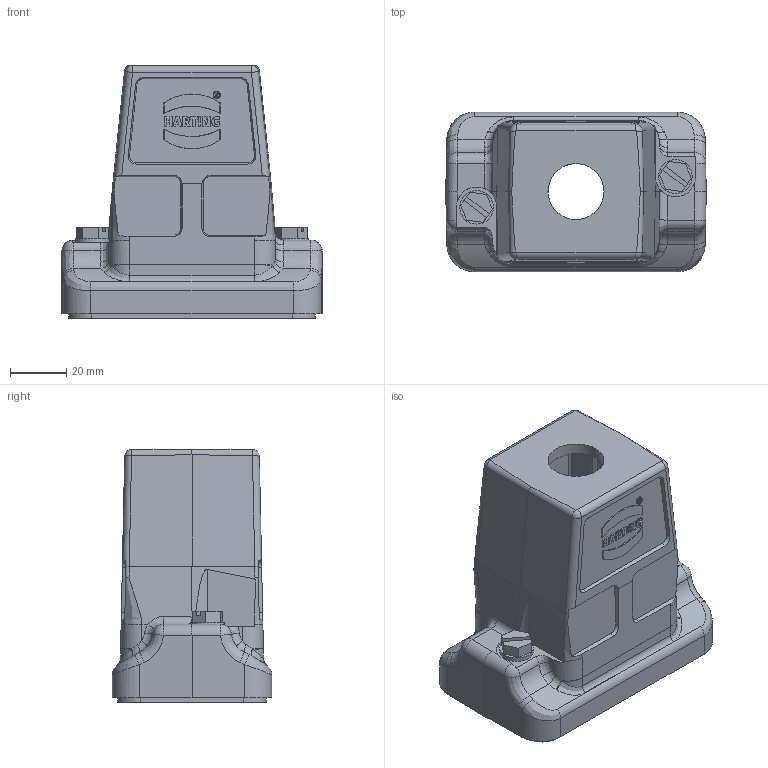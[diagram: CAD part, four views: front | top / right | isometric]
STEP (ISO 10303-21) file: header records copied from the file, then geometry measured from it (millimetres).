
FILE_DESCRIPTION(/* description */ (''),/* implementation_level */ '2;1');
FILE_NAME(/* name */ '100696583ugm000_e.stp',/* time_stamp */ '2022-10-20T15:15:23+02:00',/* author */ (''),/* organization */ (''),/* preprocessor_version */ 'ST-DEVELOPER v16.7',/* originating_system */ 'SIEMENS PLM Software NX 1911',/* authorisation */ '');
FILE_SCHEMA (('AUTOMOTIVE_DESIGN { 1 0 10303 214 3 1 1 1 }'));
Length unit declared in the file: millimetre
Products named in the file (1): 100696583ugm000_e
Bounding box: 93 x 57 x 90.3 mm (x, y, z)
Volume: 94963 mm3; surface area: 46473.1 mm2
Topology: 1 solids, 1 shells, 784 faces, 2074 edges, 1341 vertices
Faces by surface type: plane 474, cylinder 147, bspline 105, extrusion 28, cone 18, sphere 8, torus 4
Full cylindrical faces by diameter (mm): 3 x12, 5.3 x2, 6 x2, 12 x2, 20 x1
Entity records: 34513 total; most frequent: CARTESIAN_POINT 14168, ORIENTED_EDGE 4048, DIRECTION 3294, EDGE_CURVE 2024, VERTEX_POINT 1331, VECTOR 1262, LINE 1234, AXIS2_PLACEMENT_3D 1016
